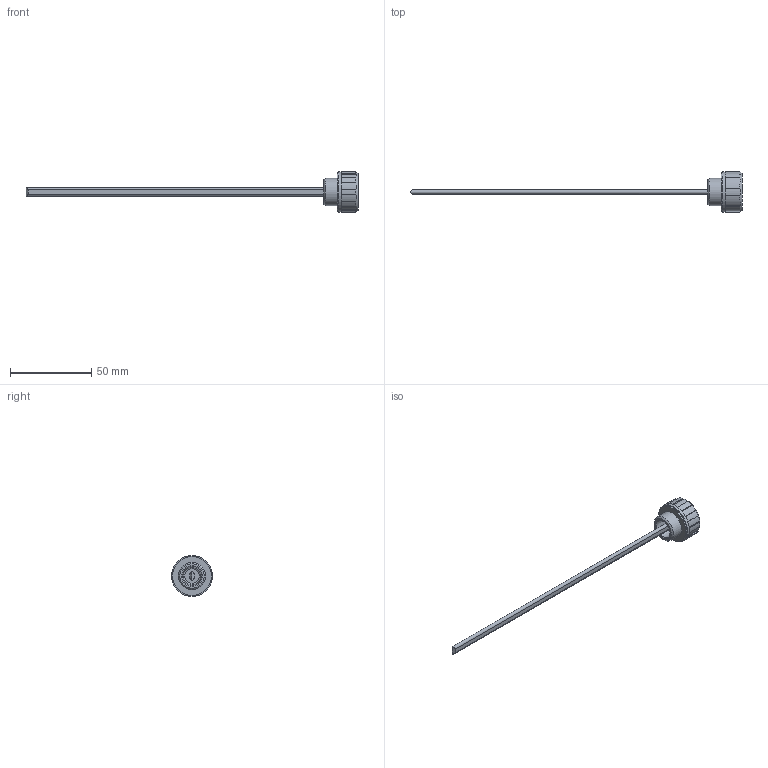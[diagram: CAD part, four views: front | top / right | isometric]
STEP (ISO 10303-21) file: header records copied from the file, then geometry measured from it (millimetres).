
FILE_DESCRIPTION( ( 'STEP AP203' ), '1' );
FILE_NAME( 'C:/Temp/Ganter_Step_05_03_2020/data/3_5/gn548_1/Plug GN 548.1-G3_8-B.stp', '2020-03-12T13:35:45', ( 'License CC BY-ND 4.0' ), ( 'CADENAS' ), ' ', 'PARTsolutions', ' ' );
FILE_SCHEMA( ( 'CONFIG_CONTROL_DESIGN' ) );
Length unit declared in the file: millimetre
Products named in the file (1): _Plug GN 548.1-G3/8-B
Bounding box: 204 x 25 x 25 mm (x, y, z)
Volume: 8311.6 mm3; surface area: 5747.6 mm2
Topology: 1 solids, 1 shells, 62 faces, 160 edges, 106 vertices
Faces by surface type: plane 31, cylinder 26, cone 3, torus 2
Full cylindrical faces by diameter (mm): 16.662 x1, 22.727 x1, 23.75 x1, 25 x1
Entity records: 1909 total; most frequent: CARTESIAN_POINT 376, DIRECTION 315, ORIENTED_EDGE 298, EDGE_CURVE 149, AXIS2_PLACEMENT_3D 123, VERTEX_POINT 104, EDGE_LOOP 77, LINE 69
